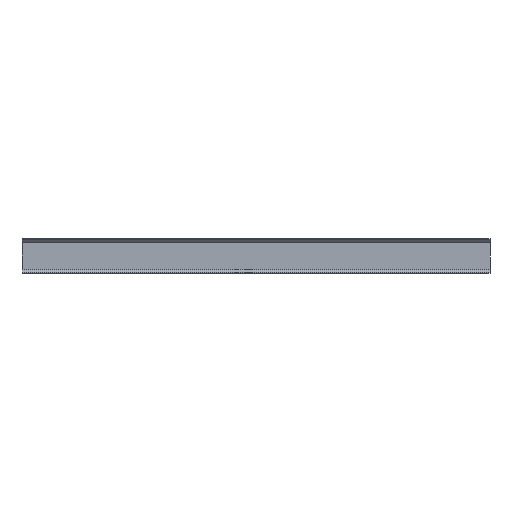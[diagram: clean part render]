
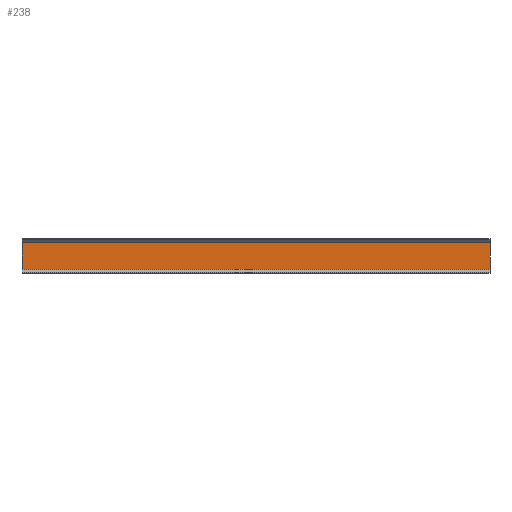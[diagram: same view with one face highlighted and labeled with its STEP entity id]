
A CAD part, front view. The second image highlights one B-rep face of the part: STEP entity #238.
In plain terms, the highlighted planar face has unit normal (0, -1, 0).
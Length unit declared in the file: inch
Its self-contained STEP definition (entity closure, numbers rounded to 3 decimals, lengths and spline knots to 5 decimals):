
#125 = LINE ( 'NONE', #297, #1145 ) ;
#238 = ADVANCED_FACE ( 'NONE', ( #778 ), #1046, .T. ) ;
#284 = CARTESIAN_POINT ( 'NONE',  ( 0., -0.036, -0.029 ) ) ;
#290 = DIRECTION ( 'NONE',  ( 0., 0., -1. ) ) ;
#297 = CARTESIAN_POINT ( 'NONE',  ( 18., -0.036, -1.211 ) ) ;
#298 = DIRECTION ( 'NONE',  ( -1., 0., 0. ) ) ;
#304 = CARTESIAN_POINT ( 'NONE',  ( 18., -0.036, 0. ) ) ;
#311 = DIRECTION ( 'NONE',  ( 1., 0., 0. ) ) ;
#420 = CARTESIAN_POINT ( 'NONE',  ( 18., -0.036, -1.211 ) ) ;
#480 = CARTESIAN_POINT ( 'NONE',  ( 0., -0.036, 0. ) ) ;
#601 = VERTEX_POINT ( 'NONE', #1044 ) ;
#612 = VERTEX_POINT ( 'NONE', #1068 ) ;
#686 = EDGE_LOOP ( 'NONE', ( #1403, #1432, #1420, #1390 ) ) ;
#778 = FACE_OUTER_BOUND ( 'NONE', #686, .T. ) ;
#829 = VERTEX_POINT ( 'NONE', #1082 ) ;
#1028 = DIRECTION ( 'NONE',  ( 0., -1., 0. ) ) ;
#1029 = DIRECTION ( 'NONE',  ( 0., 0., -1. ) ) ;
#1030 = CARTESIAN_POINT ( 'NONE',  ( 0., -0.036, 0. ) ) ;
#1044 = CARTESIAN_POINT ( 'NONE',  ( 18., -0.036, -0.029 ) ) ;
#1046 = PLANE ( 'NONE',  #1674 ) ;
#1068 = CARTESIAN_POINT ( 'NONE',  ( 0., -0.036, -1.211 ) ) ;
#1082 = CARTESIAN_POINT ( 'NONE',  ( 0., -0.036, -0.029 ) ) ;
#1124 = LINE ( 'NONE', #480, #1173 ) ;
#1145 = VECTOR ( 'NONE', #298, 39.37008 ) ;
#1153 = LINE ( 'NONE', #284, #1161 ) ;
#1154 = LINE ( 'NONE', #304, #1163 ) ;
#1161 = VECTOR ( 'NONE', #311, 39.37008 ) ;
#1163 = VECTOR ( 'NONE', #290, 39.37008 ) ;
#1173 = VECTOR ( 'NONE', #1531, 39.37008 ) ;
#1229 = VERTEX_POINT ( 'NONE', #420 ) ;
#1390 = ORIENTED_EDGE ( 'NONE', *, *, #1753, .F. ) ;
#1403 = ORIENTED_EDGE ( 'NONE', *, *, #1782, .F. ) ;
#1420 = ORIENTED_EDGE ( 'NONE', *, *, #1752, .F. ) ;
#1432 = ORIENTED_EDGE ( 'NONE', *, *, #1748, .F. ) ;
#1531 = DIRECTION ( 'NONE',  ( 0., 0., 1. ) ) ;
#1674 = AXIS2_PLACEMENT_3D ( 'NONE', #1030, #1028, #1029 ) ;
#1748 = EDGE_CURVE ( 'NONE', #1229, #612, #125, .T. ) ;
#1752 = EDGE_CURVE ( 'NONE', #601, #1229, #1154, .T. ) ;
#1753 = EDGE_CURVE ( 'NONE', #829, #601, #1153, .T. ) ;
#1782 = EDGE_CURVE ( 'NONE', #612, #829, #1124, .T. ) ;
